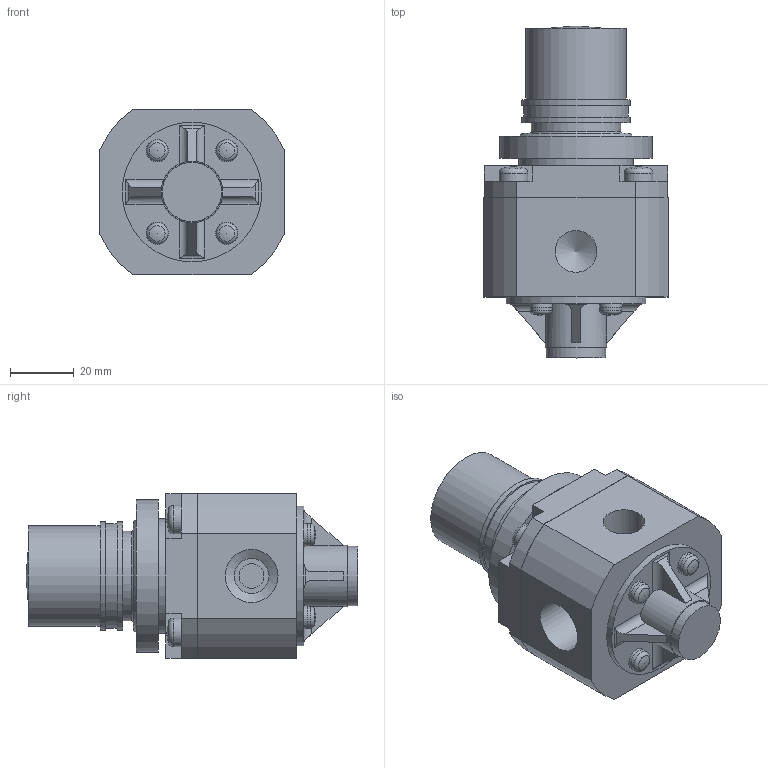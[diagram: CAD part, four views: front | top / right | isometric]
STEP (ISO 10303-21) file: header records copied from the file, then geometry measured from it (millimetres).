
FILE_DESCRIPTION(/* description */ ('STEP AP203'),/* implementation_level */ '2;1');
FILE_NAME(/* name */ 'SRH4010-03(1)',/* time_stamp */ '2026-03-25T01:04:39+01:00',/* author */ ('License CC BY-ND 4.0'),/* organization */ ('CADENAS'),/* preprocessor_version */ 'ST-DEVELOPER v20',/* originating_system */ 'PARTsolutions',/* authorisation */ ' ');
FILE_SCHEMA (('CONFIG_CONTROL_DESIGN'));
Length unit declared in the file: millimetre
Products named in the file (3): SRH4010-03(1); SRH4010-03(1)_BODY; M36x1.5_NUT
Assembly tree (2 placements, depth 2):
  SRH4010-03(1)
    SRH4010-03(1)_BODY
    M36x1.5_NUT
Bounding box: 58 x 104.5 x 52 mm (x, y, z)
Volume: 156541.7 mm3; surface area: 27161.6 mm2
Topology: 2 solids, 2 shells, 136 faces, 325 edges, 209 vertices
Faces by surface type: plane 60, cylinder 48, cone 10, torus 9, sphere 9
Full cylindrical faces by diameter (mm): 0.8 x1, 2.6 x1, 7 x4, 7.8 x2, 9 x4, 11 x2, 13.157 x1, 16.662 x2, 18.7 x1, 19.4 x1, 28.277 x1, 31.55 x1, 33 x1, 34 x2, 34.376 x1, 36 x1, 44 x1, 48 x1
Entity records: 3555 total; most frequent: CARTESIAN_POINT 632, DIRECTION 618, ORIENTED_EDGE 496, EDGE_CURVE 248, AXIS2_PLACEMENT_3D 247, FACE_BOUND 211, EDGE_LOOP 210, VERTEX_POINT 189
